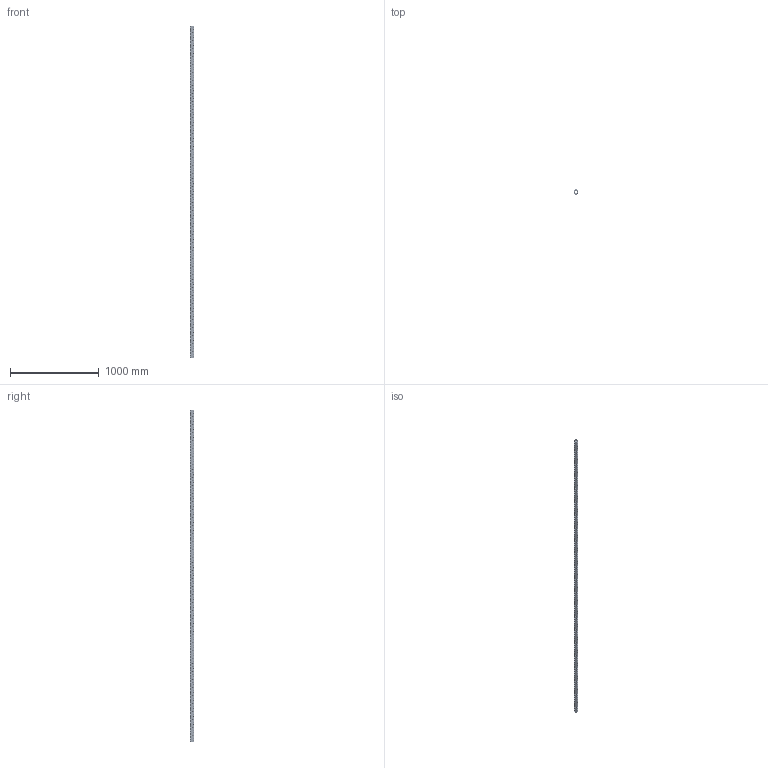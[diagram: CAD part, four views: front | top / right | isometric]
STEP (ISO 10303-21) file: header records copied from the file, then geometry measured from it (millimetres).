
FILE_DESCRIPTION(('CATIA V5 STEP Exchange'),'2;1');
FILE_NAME('U:\Room\唐宝山\EGT002\46-01-010354-01-EGT002-3748.stp','2021-08-25T00:52:06+00:00',('none'),('none'),'CATIA Version 5 Release 21 GA (IN-10)','CATIA V5 STEP AP203','none');
FILE_SCHEMA(('CONFIG_CONTROL_DESIGN'));
Products named in the file (1): 46-01-010354-01-EGT002-3748
Bounding box: 50 x 50 x 3748 mm (x, y, z)
Volume: 2670647.5 mm3; surface area: 1285980.2 mm2
Topology: 1 solids, 1 shells, 5084 faces, 13996 edges, 8664 vertices
Faces by surface type: cone 3000, cylinder 2058, plane 26
Entity records: 215794 total; most frequent: CARTESIAN_POINT 93441, ORIENTED_EDGE 27992, DIRECTION 19450, EDGE_CURVE 13996, AXIS2_PLACEMENT_3D 8987, VERTEX_POINT 8664, EDGE_LOOP 6836, VECTOR 5380
